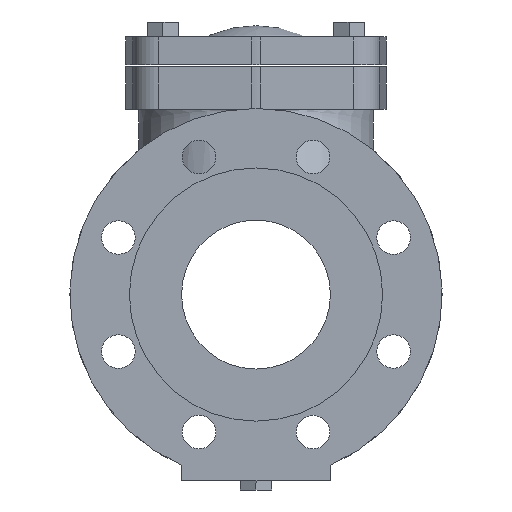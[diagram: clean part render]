
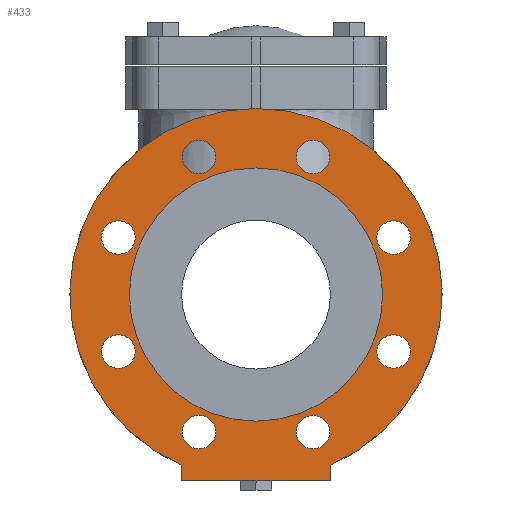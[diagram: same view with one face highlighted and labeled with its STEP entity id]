
A CAD part, front view. The second image highlights one B-rep face of the part: STEP entity #433.
In plain terms, the highlighted planar face has unit normal (0, -1, 0).
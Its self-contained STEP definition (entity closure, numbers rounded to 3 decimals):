
#433 = ADVANCED_FACE( '', ( #1146, #1147, #1148, #1149, #1150, #1151, #1152, #1153, #1154, #1155 ), #1156, .F. );
#1146 = FACE_OUTER_BOUND( '', #2781, .T. );
#1147 = FACE_BOUND( '', #2782, .T. );
#1148 = FACE_BOUND( '', #2783, .T. );
#1149 = FACE_BOUND( '', #2784, .T. );
#1150 = FACE_BOUND( '', #2785, .T. );
#1151 = FACE_BOUND( '', #2786, .T. );
#1152 = FACE_BOUND( '', #2787, .T. );
#1153 = FACE_BOUND( '', #2788, .T. );
#1154 = FACE_BOUND( '', #2789, .T. );
#1155 = FACE_BOUND( '', #2790, .T. );
#1156 = PLANE( '', #2791 );
#2781 = EDGE_LOOP( '', ( #11652, #11653, #11654, #11655 ) );
#2782 = EDGE_LOOP( '', ( #11656 ) );
#2783 = EDGE_LOOP( '', ( #11657 ) );
#2784 = EDGE_LOOP( '', ( #11658 ) );
#2785 = EDGE_LOOP( '', ( #11659 ) );
#2786 = EDGE_LOOP( '', ( #11660 ) );
#2787 = EDGE_LOOP( '', ( #11661 ) );
#2788 = EDGE_LOOP( '', ( #11662 ) );
#2789 = EDGE_LOOP( '', ( #11663 ) );
#2790 = EDGE_LOOP( '', ( #11664 ) );
#2791 = AXIS2_PLACEMENT_3D( '', #11665, #11666, #11667 );
#11652 = ORIENTED_EDGE( '', *, *, #14001, .T. );
#11653 = ORIENTED_EDGE( '', *, *, #14002, .T. );
#11654 = ORIENTED_EDGE( '', *, *, #14003, .T. );
#11655 = ORIENTED_EDGE( '', *, *, #14004, .T. );
#11656 = ORIENTED_EDGE( '', *, *, #13767, .F. );
#11657 = ORIENTED_EDGE( '', *, *, #14005, .T. );
#11658 = ORIENTED_EDGE( '', *, *, #14006, .T. );
#11659 = ORIENTED_EDGE( '', *, *, #14007, .T. );
#11660 = ORIENTED_EDGE( '', *, *, #13976, .T. );
#11661 = ORIENTED_EDGE( '', *, *, #14008, .T. );
#11662 = ORIENTED_EDGE( '', *, *, #14009, .T. );
#11663 = ORIENTED_EDGE( '', *, *, #14010, .T. );
#11664 = ORIENTED_EDGE( '', *, *, #14011, .T. );
#11665 = CARTESIAN_POINT( '', ( 0., -127., 68. ) );
#11666 = DIRECTION( '', ( 0., 1., 0. ) );
#11667 = DIRECTION( '', ( 0., 0., 1. ) );
#13767 = EDGE_CURVE( '', #14791, #14791, #14792, .T. );
#13976 = EDGE_CURVE( '', #15162, #15162, #15163, .T. );
#14001 = EDGE_CURVE( '', #15204, #15205, #15206, .T. );
#14002 = EDGE_CURVE( '', #15205, #15207, #15208, .T. );
#14003 = EDGE_CURVE( '', #15207, #15209, #15210, .T. );
#14004 = EDGE_CURVE( '', #15209, #15204, #15211, .T. );
#14005 = EDGE_CURVE( '', #15212, #15212, #15213, .T. );
#14006 = EDGE_CURVE( '', #15214, #15214, #15215, .T. );
#14007 = EDGE_CURVE( '', #15216, #15216, #15217, .T. );
#14008 = EDGE_CURVE( '', #15218, #15218, #15219, .T. );
#14009 = EDGE_CURVE( '', #15220, #15220, #15221, .T. );
#14010 = EDGE_CURVE( '', #15222, #15222, #15223, .T. );
#14011 = EDGE_CURVE( '', #15224, #15224, #15225, .T. );
#14791 = VERTEX_POINT( '', #16315 );
#14792 = CIRCLE( '', #16316, 68. );
#15162 = VERTEX_POINT( '', #17518 );
#15163 = CIRCLE( '', #17519, 9. );
#15204 = VERTEX_POINT( '', #17740 );
#15205 = VERTEX_POINT( '', #17741 );
#15206 = LINE( '', #17742, #17743 );
#15207 = VERTEX_POINT( '', #17744 );
#15208 = LINE( '', #17745, #17746 );
#15209 = VERTEX_POINT( '', #17747 );
#15210 = CIRCLE( '', #17748, 100. );
#15211 = LINE( '', #17749, #17750 );
#15212 = VERTEX_POINT( '', #17751 );
#15213 = CIRCLE( '', #17752, 9. );
#15214 = VERTEX_POINT( '', #17753 );
#15215 = CIRCLE( '', #17754, 9. );
#15216 = VERTEX_POINT( '', #17755 );
#15217 = CIRCLE( '', #17756, 9. );
#15218 = VERTEX_POINT( '', #17757 );
#15219 = CIRCLE( '', #17758, 9. );
#15220 = VERTEX_POINT( '', #17759 );
#15221 = CIRCLE( '', #17760, 9. );
#15222 = VERTEX_POINT( '', #17761 );
#15223 = CIRCLE( '', #17762, 9. );
#15224 = VERTEX_POINT( '', #17763 );
#15225 = CIRCLE( '', #17764, 9. );
#16315 = CARTESIAN_POINT( '', ( 0., -127., -68. ) );
#16316 = AXIS2_PLACEMENT_3D( '', #24204, #24205, #24206 );
#17518 = CARTESIAN_POINT( '', ( 30.615, -127., -64.91 ) );
#17519 = AXIS2_PLACEMENT_3D( '', #24391, #24392, #24393 );
#17740 = CARTESIAN_POINT( '', ( -40., -127., -100. ) );
#17741 = CARTESIAN_POINT( '', ( 40., -127., -100. ) );
#17742 = CARTESIAN_POINT( '', ( -40., -127., -100. ) );
#17743 = VECTOR( '', #24405, 1000. );
#17744 = CARTESIAN_POINT( '', ( 40., -127., -91.652 ) );
#17745 = CARTESIAN_POINT( '', ( 40., -127., -100. ) );
#17746 = VECTOR( '', #24406, 1000. );
#17747 = CARTESIAN_POINT( '', ( -40., -127., -91.652 ) );
#17748 = AXIS2_PLACEMENT_3D( '', #24407, #24408, #24409 );
#17749 = CARTESIAN_POINT( '', ( -40., -127., -100. ) );
#17750 = VECTOR( '', #24410, 1000. );
#17751 = CARTESIAN_POINT( '', ( 24.251, -127., 67.546 ) );
#17752 = AXIS2_PLACEMENT_3D( '', #24411, #24412, #24413 );
#17753 = CARTESIAN_POINT( '', ( 64.91, -127., 30.615 ) );
#17754 = AXIS2_PLACEMENT_3D( '', #24414, #24415, #24416 );
#17755 = CARTESIAN_POINT( '', ( 67.546, -127., -24.251 ) );
#17756 = AXIS2_PLACEMENT_3D( '', #24417, #24418, #24419 );
#17757 = CARTESIAN_POINT( '', ( -24.251, -127., -67.546 ) );
#17758 = AXIS2_PLACEMENT_3D( '', #24420, #24421, #24422 );
#17759 = CARTESIAN_POINT( '', ( -64.91, -127., -30.615 ) );
#17760 = AXIS2_PLACEMENT_3D( '', #24423, #24424, #24425 );
#17761 = CARTESIAN_POINT( '', ( -67.546, -127., 24.251 ) );
#17762 = AXIS2_PLACEMENT_3D( '', #24426, #24427, #24428 );
#17763 = CARTESIAN_POINT( '', ( -30.615, -127., 64.91 ) );
#17764 = AXIS2_PLACEMENT_3D( '', #24429, #24430, #24431 );
#24204 = CARTESIAN_POINT( '', ( 0., -127., 0. ) );
#24205 = DIRECTION( '', ( 0., -1., 0. ) );
#24206 = DIRECTION( '', ( 0., 0., -1. ) );
#24391 = CARTESIAN_POINT( '', ( 30.615, -127., -73.91 ) );
#24392 = DIRECTION( '', ( 0., 1., 0. ) );
#24393 = DIRECTION( '', ( 0., 0., 1. ) );
#24405 = DIRECTION( '', ( 1., 0., 0. ) );
#24406 = DIRECTION( '', ( 0., 0., 1. ) );
#24407 = CARTESIAN_POINT( '', ( 0., -127., 0. ) );
#24408 = DIRECTION( '', ( 0., -1., 0. ) );
#24409 = DIRECTION( '', ( 0., 0., -1. ) );
#24410 = DIRECTION( '', ( 0., 0., -1. ) );
#24411 = CARTESIAN_POINT( '', ( 30.615, -127., 73.91 ) );
#24412 = DIRECTION( '', ( 0., 1., 0. ) );
#24413 = DIRECTION( '', ( -0.707, 0., -0.707 ) );
#24414 = CARTESIAN_POINT( '', ( 73.91, -127., 30.615 ) );
#24415 = DIRECTION( '', ( 0., 1., 0. ) );
#24416 = DIRECTION( '', ( -1., 0., 0. ) );
#24417 = CARTESIAN_POINT( '', ( 73.91, -127., -30.615 ) );
#24418 = DIRECTION( '', ( 0., 1., 0. ) );
#24419 = DIRECTION( '', ( -0.707, 0., 0.707 ) );
#24420 = CARTESIAN_POINT( '', ( -30.615, -127., -73.91 ) );
#24421 = DIRECTION( '', ( 0., 1., 0. ) );
#24422 = DIRECTION( '', ( 0.707, 0., 0.707 ) );
#24423 = CARTESIAN_POINT( '', ( -73.91, -127., -30.615 ) );
#24424 = DIRECTION( '', ( 0., 1., 0. ) );
#24425 = DIRECTION( '', ( 1., 0., 0. ) );
#24426 = CARTESIAN_POINT( '', ( -73.91, -127., 30.615 ) );
#24427 = DIRECTION( '', ( 0., 1., 0. ) );
#24428 = DIRECTION( '', ( 0.707, 0., -0.707 ) );
#24429 = CARTESIAN_POINT( '', ( -30.615, -127., 73.91 ) );
#24430 = DIRECTION( '', ( 0., 1., 0. ) );
#24431 = DIRECTION( '', ( 0., 0., -1. ) );
